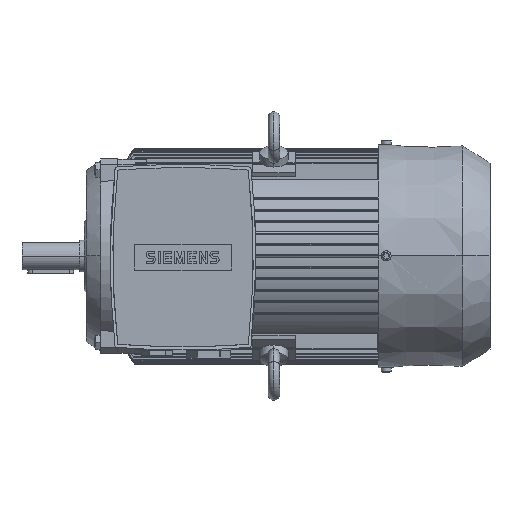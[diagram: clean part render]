
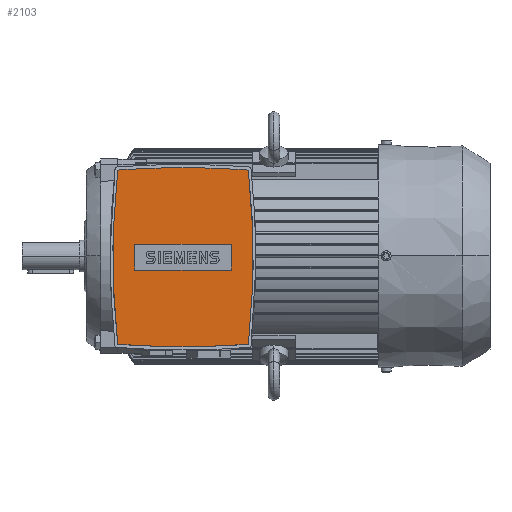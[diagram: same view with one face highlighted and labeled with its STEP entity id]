
A CAD part, top view. The second image highlights one B-rep face of the part: STEP entity #2103.
In plain terms, the highlighted planar face has unit normal (0, 0, 1).
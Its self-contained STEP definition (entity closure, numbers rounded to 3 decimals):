
#2103=ADVANCED_FACE('',(#4598,#4599),#4600,.T.);
#4598=FACE_BOUND('',#7492,.T.);
#4599=FACE_OUTER_BOUND('',#7493,.T.);
#4600=PLANE('',#7494);
#7492=EDGE_LOOP('',(#14093,#14094,#14095,#14096));
#7493=EDGE_LOOP('',(#14097,#14098,#14099,#14100,#14101,#14102));
#7494=AXIS2_PLACEMENT_3D('',#14103,#14104,#14105);
#14093=ORIENTED_EDGE('',*,*,#20124,.T.);
#14094=ORIENTED_EDGE('',*,*,#20128,.T.);
#14095=ORIENTED_EDGE('',*,*,#20131,.T.);
#14096=ORIENTED_EDGE('',*,*,#20133,.T.);
#14097=ORIENTED_EDGE('',*,*,#20209,.T.);
#14098=ORIENTED_EDGE('',*,*,#20211,.T.);
#14099=ORIENTED_EDGE('',*,*,#18083,.T.);
#14100=ORIENTED_EDGE('',*,*,#20203,.T.);
#14101=ORIENTED_EDGE('',*,*,#18094,.T.);
#14102=ORIENTED_EDGE('',*,*,#20200,.T.);
#14103=CARTESIAN_POINT('',(45.5,-1.0,159.0));
#14104=DIRECTION('',(0.0,0.0,1.0));
#14105=DIRECTION('',(0.0,-1.0,0.0));
#18083=EDGE_CURVE('',#21931,#21935,#21937,.T.);
#18094=EDGE_CURVE('',#21957,#21954,#21958,.T.);
#20124=EDGE_CURVE('',#25006,#25004,#25007,.T.);
#20128=EDGE_CURVE('',#25004,#25010,#25012,.T.);
#20131=EDGE_CURVE('',#25010,#25014,#25016,.T.);
#20133=EDGE_CURVE('',#25014,#25006,#25018,.T.);
#20200=EDGE_CURVE('',#21954,#25113,#25115,.T.);
#20203=EDGE_CURVE('',#21935,#21957,#25118,.T.);
#20209=EDGE_CURVE('',#25113,#25123,#25125,.T.);
#20211=EDGE_CURVE('',#25123,#21931,#25127,.T.);
#21931=VERTEX_POINT('',#28560);
#21935=VERTEX_POINT('',#28565);
#21937=CIRCLE('',#28568,630.36);
#21954=VERTEX_POINT('',#28610);
#21957=VERTEX_POINT('',#28614);
#21958=CIRCLE('',#28615,630.36);
#25004=VERTEX_POINT('',#34680);
#25006=VERTEX_POINT('',#34683);
#25007=LINE('',#34684,#34685);
#25010=VERTEX_POINT('',#34689);
#25012=LINE('',#34692,#34693);
#25014=VERTEX_POINT('',#34695);
#25016=LINE('',#34698,#34699);
#25018=LINE('',#34701,#34702);
#25113=VERTEX_POINT('',#34840);
#25115=CIRCLE('',#34843,630.36);
#25118=CIRCLE('',#34846,554.4);
#25123=VERTEX_POINT('',#34852);
#25125=CIRCLE('',#34855,554.4);
#25127=CIRCLE('',#34857,630.36);
#28560=CARTESIAN_POINT('',(45.5,-63.5,159.0));
#28565=CARTESIAN_POINT('',(91.151,-61.845,159.0));
#28568=AXIS2_PLACEMENT_3D('',#38252,#38253,#38254);
#28610=CARTESIAN_POINT('',(45.5,61.5,159.0));
#28614=CARTESIAN_POINT('',(91.151,59.845,159.0));
#28615=AXIS2_PLACEMENT_3D('',#38268,#38269,#38270);
#34680=CARTESIAN_POINT('',(11.75,-10.05,159.0));
#34683=CARTESIAN_POINT('',(79.25,-10.05,159.0));
#34684=CARTESIAN_POINT('',(45.5,-10.05,159.0));
#34685=VECTOR('',#40460,1.0);
#34689=CARTESIAN_POINT('',(11.75,8.05,159.0));
#34692=CARTESIAN_POINT('',(11.75,-1.0,159.0));
#34693=VECTOR('',#40463,1.0);
#34695=CARTESIAN_POINT('',(79.25,8.05,159.0));
#34698=CARTESIAN_POINT('',(45.5,8.05,159.0));
#34699=VECTOR('',#40465,1.0);
#34701=CARTESIAN_POINT('',(79.25,-1.0,159.0));
#34702=VECTOR('',#40466,1.0);
#34840=CARTESIAN_POINT('',(-0.151,59.845,159.0));
#34843=AXIS2_PLACEMENT_3D('',#40565,#40566,#40567);
#34846=AXIS2_PLACEMENT_3D('',#40568,#40569,#40570);
#34852=CARTESIAN_POINT('',(-0.151,-61.845,159.0));
#34855=AXIS2_PLACEMENT_3D('',#40573,#40574,#40575);
#34857=AXIS2_PLACEMENT_3D('',#40576,#40577,#40578);
#38252=CARTESIAN_POINT('',(45.5,566.86,159.0));
#38253=DIRECTION('',(0.0,-0.0,1.0));
#38254=DIRECTION('',(0.0,1.0,0.0));
#38268=CARTESIAN_POINT('',(45.5,-568.86,159.0));
#38269=DIRECTION('',(0.0,-0.0,1.0));
#38270=DIRECTION('',(0.0,1.0,0.0));
#40460=DIRECTION('',(-1.0,0.0,0.0));
#40463=DIRECTION('',(0.0,1.0,0.0));
#40465=DIRECTION('',(1.0,0.0,-0.0));
#40466=DIRECTION('',(0.0,-1.0,0.0));
#40565=CARTESIAN_POINT('',(45.5,-568.86,159.0));
#40566=DIRECTION('',(0.0,-0.0,1.0));
#40567=DIRECTION('',(0.0,1.0,0.0));
#40568=CARTESIAN_POINT('',(-459.9,-1.0,159.0));
#40569=DIRECTION('',(0.0,-0.0,1.0));
#40570=DIRECTION('',(0.0,1.0,0.0));
#40573=CARTESIAN_POINT('',(550.9,-1.0,159.0));
#40574=DIRECTION('',(0.0,-0.0,1.0));
#40575=DIRECTION('',(0.0,1.0,0.0));
#40576=CARTESIAN_POINT('',(45.5,566.86,159.0));
#40577=DIRECTION('',(0.0,-0.0,1.0));
#40578=DIRECTION('',(0.0,1.0,0.0));
